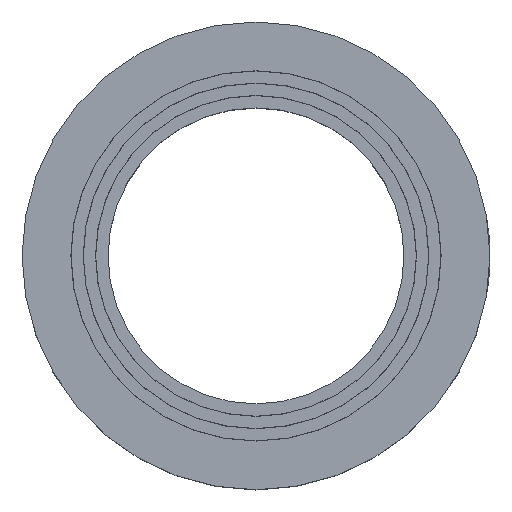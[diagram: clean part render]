
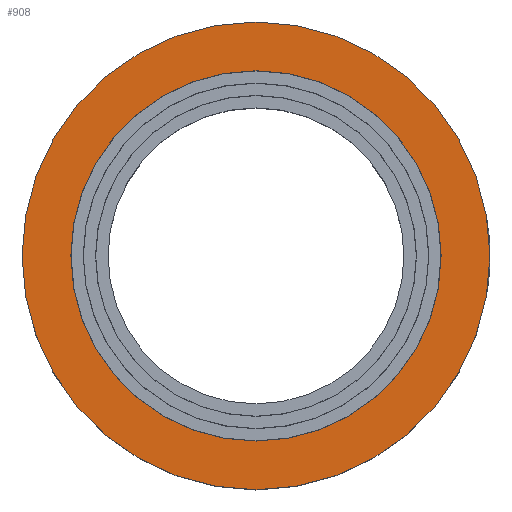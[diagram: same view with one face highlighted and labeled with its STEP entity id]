
A CAD part, top view. The second image highlights one B-rep face of the part: STEP entity #908.
In plain terms, the highlighted planar face has unit normal (0, 0, 1).
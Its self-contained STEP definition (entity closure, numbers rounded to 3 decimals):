
#49 = PLANE ( 'NONE',  #56 ) ;
#50 = FACE_OUTER_BOUND ( 'NONE', #913, .T. ) ;
#51 = CIRCLE ( 'NONE', #66, 22.52 ) ;
#56 = AXIS2_PLACEMENT_3D ( 'NONE', #73, #72, #71 ) ;
#57 = CARTESIAN_POINT ( 'NONE',  ( 0., 0., 14. ) ) ;
#61 = FACE_BOUND ( 'NONE', #909, .T. ) ;
#64 = DIRECTION ( 'NONE',  ( -1., 0., 0. ) ) ;
#65 = DIRECTION ( 'NONE',  ( 0., 0., -1. ) ) ;
#66 = AXIS2_PLACEMENT_3D ( 'NONE', #57, #65, #64 ) ;
#71 = DIRECTION ( 'NONE',  ( 1., 0., 0. ) ) ;
#72 = DIRECTION ( 'NONE',  ( 0., 0., 1. ) ) ;
#73 = CARTESIAN_POINT ( 'NONE',  ( 0., 0., 14. ) ) ;
#510 = EDGE_CURVE ( 'NONE', #511, #552, #1252, .T. ) ;
#511 = VERTEX_POINT ( 'NONE', #1437 ) ;
#531 = EDGE_CURVE ( 'NONE', #532, #533, #1397, .T. ) ;
#532 = VERTEX_POINT ( 'NONE', #1393 ) ;
#533 = VERTEX_POINT ( 'NONE', #1392 ) ;
#552 = VERTEX_POINT ( 'NONE', #1364 ) ;
#892 = EDGE_CURVE ( 'NONE', #533, #532, #1931, .T. ) ;
#908 = ADVANCED_FACE ( 'NONE', ( #61, #50 ), #49, .T. ) ;
#909 = EDGE_LOOP ( 'NONE', ( #910, #912 ) ) ;
#910 = ORIENTED_EDGE ( 'NONE', *, *, #911, .T. ) ;
#911 = EDGE_CURVE ( 'NONE', #552, #511, #51, .T. ) ;
#912 = ORIENTED_EDGE ( 'NONE', *, *, #510, .T. ) ;
#913 = EDGE_LOOP ( 'NONE', ( #914, #915 ) ) ;
#914 = ORIENTED_EDGE ( 'NONE', *, *, #892, .T. ) ;
#915 = ORIENTED_EDGE ( 'NONE', *, *, #531, .T. ) ;
#1252 = CIRCLE ( 'NONE', #1441, 22.52 ) ;
#1364 = CARTESIAN_POINT ( 'NONE',  ( -22.52, 0., 14. ) ) ;
#1392 = CARTESIAN_POINT ( 'NONE',  ( -28.45, 0., 14. ) ) ;
#1393 = CARTESIAN_POINT ( 'NONE',  ( 28.45, 0., 14. ) ) ;
#1394 = DIRECTION ( 'NONE',  ( 1., 0., 0. ) ) ;
#1395 = DIRECTION ( 'NONE',  ( 0., 0., 1. ) ) ;
#1396 = AXIS2_PLACEMENT_3D ( 'NONE', #1403, #1395, #1394 ) ;
#1397 = CIRCLE ( 'NONE', #1396, 28.45 ) ;
#1403 = CARTESIAN_POINT ( 'NONE',  ( 0., 0., 14. ) ) ;
#1437 = CARTESIAN_POINT ( 'NONE',  ( 22.52, 0., 14. ) ) ;
#1438 = DIRECTION ( 'NONE',  ( -1., 0., 0. ) ) ;
#1439 = DIRECTION ( 'NONE',  ( 0., 0., -1. ) ) ;
#1440 = CARTESIAN_POINT ( 'NONE',  ( 0., 0., 14. ) ) ;
#1441 = AXIS2_PLACEMENT_3D ( 'NONE', #1440, #1439, #1438 ) ;
#1927 = DIRECTION ( 'NONE',  ( 0., 0., 1. ) ) ;
#1929 = CARTESIAN_POINT ( 'NONE',  ( 0., 0., 14. ) ) ;
#1930 = AXIS2_PLACEMENT_3D ( 'NONE', #1929, #1927, #1944 ) ;
#1931 = CIRCLE ( 'NONE', #1930, 28.45 ) ;
#1944 = DIRECTION ( 'NONE',  ( 1., 0., 0. ) ) ;
